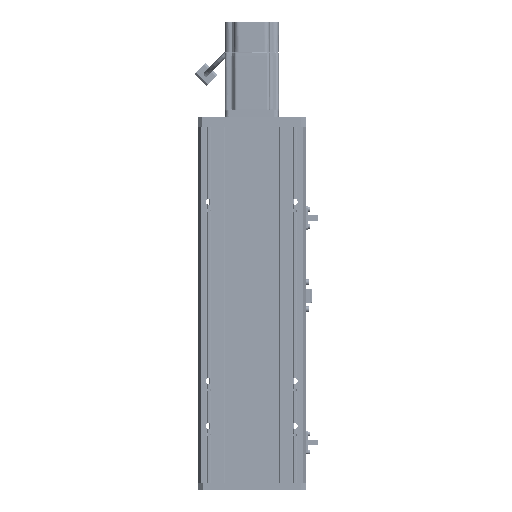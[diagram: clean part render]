
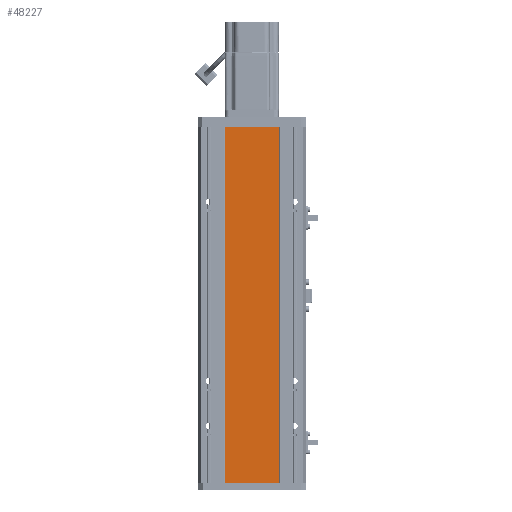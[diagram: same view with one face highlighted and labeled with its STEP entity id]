
A CAD part, front view. The second image highlights one B-rep face of the part: STEP entity #48227.
In plain terms, the highlighted planar face has unit normal (0, -1, 0).
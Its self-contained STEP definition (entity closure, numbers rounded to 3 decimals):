
#1699 = EDGE_CURVE ( 'NONE', #46834, #89543, #51113, .T. ) ;
#1841 = EDGE_LOOP ( 'NONE', ( #97864, #23725, #33614, #39000 ) ) ;
#5656 = CARTESIAN_POINT ( 'NONE',  ( 30., 0., 0. ) ) ;
#7370 = CARTESIAN_POINT ( 'NONE',  ( 30., 0., -396.5 ) ) ;
#10764 = CARTESIAN_POINT ( 'NONE',  ( -30., 0., -396.5 ) ) ;
#12254 = VECTOR ( 'NONE', #93847, 1000. ) ;
#19882 = FACE_OUTER_BOUND ( 'NONE', #1841, .T. ) ;
#23725 = ORIENTED_EDGE ( 'NONE', *, *, #104186, .F. ) ;
#26104 = VERTEX_POINT ( 'NONE', #91563 ) ;
#26272 = VECTOR ( 'NONE', #62334, 1000. ) ;
#29591 = VECTOR ( 'NONE', #90504, 1000. ) ;
#33614 = ORIENTED_EDGE ( 'NONE', *, *, #1699, .F. ) ;
#39000 = ORIENTED_EDGE ( 'NONE', *, *, #53281, .T. ) ;
#39879 = DIRECTION ( 'NONE',  ( -1., 0., 0. ) ) ;
#41375 = CARTESIAN_POINT ( 'NONE',  ( 30., 0., -396.5 ) ) ;
#45214 = VERTEX_POINT ( 'NONE', #5656 ) ;
#46834 = VERTEX_POINT ( 'NONE', #81244 ) ;
#48227 = ADVANCED_FACE ( 'NONE', ( #19882 ), #96116, .F. ) ;
#49493 = CARTESIAN_POINT ( 'NONE',  ( 30., 0., -396.5 ) ) ;
#50943 = EDGE_CURVE ( 'NONE', #45214, #26104, #52856, .T. ) ;
#51113 = LINE ( 'NONE', #49493, #29591 ) ;
#52856 = LINE ( 'NONE', #54277, #26272 ) ;
#53281 = EDGE_CURVE ( 'NONE', #46834, #45214, #95587, .T. ) ;
#53534 = CARTESIAN_POINT ( 'NONE',  ( -30., 0., -396.5 ) ) ;
#54277 = CARTESIAN_POINT ( 'NONE',  ( 30., 0., 0. ) ) ;
#62334 = DIRECTION ( 'NONE',  ( -1., 0., 0. ) ) ;
#68961 = VECTOR ( 'NONE', #89813, 1000. ) ;
#69520 = AXIS2_PLACEMENT_3D ( 'NONE', #7370, #88319, #39879 ) ;
#76807 = LINE ( 'NONE', #53534, #12254 ) ;
#81244 = CARTESIAN_POINT ( 'NONE',  ( 30., 0., -396.5 ) ) ;
#88319 = DIRECTION ( 'NONE',  ( 0., 1., 0. ) ) ;
#89543 = VERTEX_POINT ( 'NONE', #10764 ) ;
#89813 = DIRECTION ( 'NONE',  ( 0., 0., 1. ) ) ;
#90504 = DIRECTION ( 'NONE',  ( -1., 0., 0. ) ) ;
#91563 = CARTESIAN_POINT ( 'NONE',  ( -30., 0., 0. ) ) ;
#93847 = DIRECTION ( 'NONE',  ( 0., 0., 1. ) ) ;
#95587 = LINE ( 'NONE', #41375, #68961 ) ;
#96116 = PLANE ( 'NONE',  #69520 ) ;
#97864 = ORIENTED_EDGE ( 'NONE', *, *, #50943, .T. ) ;
#104186 = EDGE_CURVE ( 'NONE', #89543, #26104, #76807, .T. ) ;
